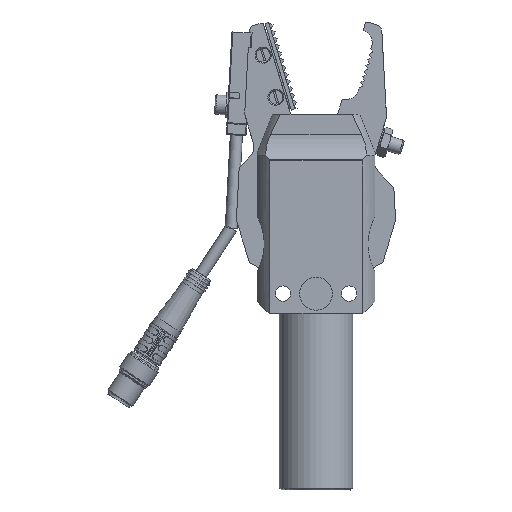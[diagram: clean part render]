
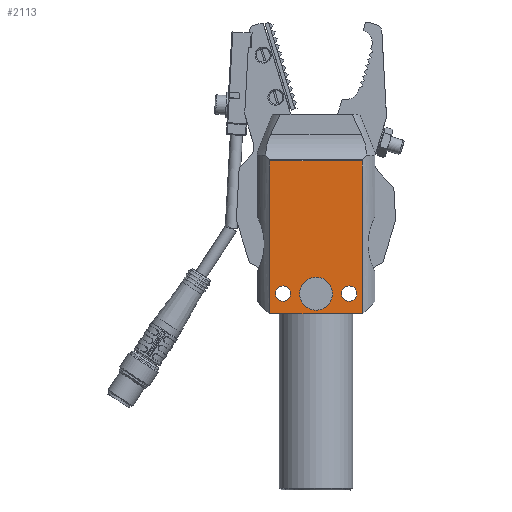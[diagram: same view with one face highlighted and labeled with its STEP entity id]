
A CAD part, front view. The second image highlights one B-rep face of the part: STEP entity #2113.
In plain terms, the highlighted planar face has unit normal (0, -1, 0).
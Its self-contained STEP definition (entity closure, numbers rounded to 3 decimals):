
#2113=ADVANCED_FACE('',(#4571,#4572,#4573,#4574),#4575,.T.);
#4571=FACE_BOUND('',#8184,.T.);
#4572=FACE_BOUND('',#8185,.T.);
#4573=FACE_BOUND('',#8186,.T.);
#4574=FACE_OUTER_BOUND('',#8187,.T.);
#4575=PLANE('',#8188);
#8184=EDGE_LOOP('',(#15547));
#8185=EDGE_LOOP('',(#15548));
#8186=EDGE_LOOP('',(#15549));
#8187=EDGE_LOOP('',(#15550,#15551,#15552,#15553));
#8188=AXIS2_PLACEMENT_3D('',#15554,#15555,#15556);
#15547=ORIENTED_EDGE('',*,*,#25670,.F.);
#15548=ORIENTED_EDGE('',*,*,#25671,.F.);
#15549=ORIENTED_EDGE('',*,*,#25672,.F.);
#15550=ORIENTED_EDGE('',*,*,#25673,.T.);
#15551=ORIENTED_EDGE('',*,*,#25674,.T.);
#15552=ORIENTED_EDGE('',*,*,#25675,.T.);
#15553=ORIENTED_EDGE('',*,*,#25658,.T.);
#15554=CARTESIAN_POINT('',(17.501,-12.0,0.0));
#15555=DIRECTION('',(0.0,-1.0,0.));
#15556=DIRECTION('',(0.0,0.,-1.0));
#25658=EDGE_CURVE('',#29693,#29691,#29694,.T.);
#25670=EDGE_CURVE('',#29711,#29711,#29712,.T.);
#25671=EDGE_CURVE('',#29713,#29713,#29714,.T.);
#25672=EDGE_CURVE('',#29715,#29715,#29716,.T.);
#25673=EDGE_CURVE('',#29691,#29717,#29718,.F.);
#25674=EDGE_CURVE('',#29717,#29719,#29720,.F.);
#25675=EDGE_CURVE('',#29719,#29693,#29721,.T.);
#29691=VERTEX_POINT('',#35768);
#29693=VERTEX_POINT('',#35770);
#29694=LINE('',#35771,#35772);
#29711=VERTEX_POINT('',#35792);
#29712=CIRCLE('',#35793,2.1);
#29713=VERTEX_POINT('',#35794);
#29714=CIRCLE('',#35795,2.1);
#29715=VERTEX_POINT('',#35796);
#29716=CIRCLE('',#35797,4.5);
#29717=VERTEX_POINT('',#35798);
#29718=LINE('',#35799,#35800);
#29719=VERTEX_POINT('',#35801);
#29720=LINE('',#35802,#35803);
#29721=LINE('',#35804,#35805);
#35768=CARTESIAN_POINT('',(-12.6,-12.0,57.0));
#35770=CARTESIAN_POINT('',(12.6,-12.0,57.0));
#35771=CARTESIAN_POINT('',(17.501,-12.0,57.0));
#35772=VECTOR('',#45049,1.0);
#35792=CARTESIAN_POINT('',(-9.0,-12.0,49.4));
#35793=AXIS2_PLACEMENT_3D('',#45068,#45069,#45070);
#35794=CARTESIAN_POINT('',(9.0,-12.0,49.4));
#35795=AXIS2_PLACEMENT_3D('',#45071,#45072,#45073);
#35796=CARTESIAN_POINT('',(0.0,-12.0,47.0));
#35797=AXIS2_PLACEMENT_3D('',#45074,#45075,#45076);
#35798=CARTESIAN_POINT('',(-12.6,-12.0,15.348));
#35799=CARTESIAN_POINT('',(-12.6,-12.0,-5.617));
#35800=VECTOR('',#45077,1.0);
#35801=CARTESIAN_POINT('',(12.6,-12.0,15.348));
#35802=CARTESIAN_POINT('',(17.501,-12.0,15.348));
#35803=VECTOR('',#45078,1.0);
#35804=CARTESIAN_POINT('',(12.6,-12.0,-5.617));
#35805=VECTOR('',#45079,1.0);
#45049=DIRECTION('',(-1.0,0.0,0.0));
#45068=CARTESIAN_POINT('',(-9.0,-12.0,51.5));
#45069=DIRECTION('',(0.0,-1.0,0.0));
#45070=DIRECTION('',(0.0,0.0,-1.0));
#45071=CARTESIAN_POINT('',(9.0,-12.0,51.5));
#45072=DIRECTION('',(0.0,-1.0,0.0));
#45073=DIRECTION('',(0.0,0.0,-1.0));
#45074=CARTESIAN_POINT('',(0.0,-12.0,51.5));
#45075=DIRECTION('',(0.0,-1.0,0.));
#45076=DIRECTION('',(0.0,0.,-1.0));
#45077=DIRECTION('',(0.0,0.0,1.0));
#45078=DIRECTION('',(-1.0,0.0,0.0));
#45079=DIRECTION('',(0.0,0.0,1.0));
